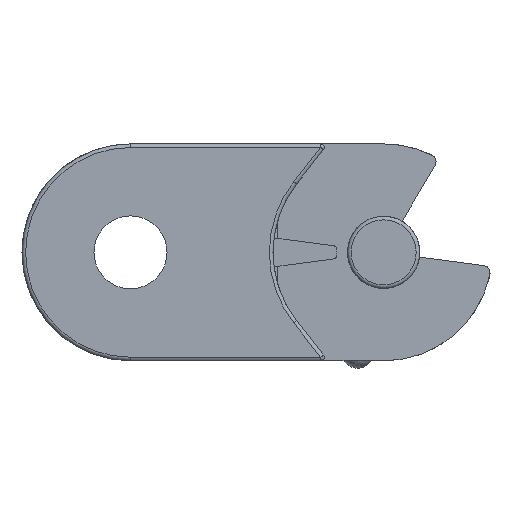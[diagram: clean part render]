
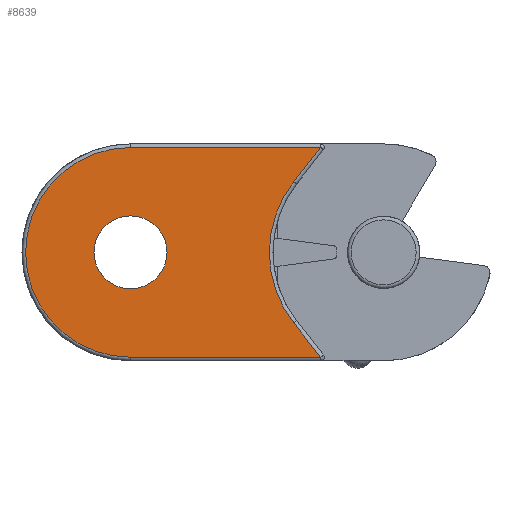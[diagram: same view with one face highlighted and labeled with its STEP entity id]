
A CAD part, left-side view. The second image highlights one B-rep face of the part: STEP entity #8639.
In plain terms, the highlighted planar face has unit normal (-1, 0, 0) as drawn and (0, 0, -1) by its records, which use the part's own axes.
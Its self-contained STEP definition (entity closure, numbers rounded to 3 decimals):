
#6693=CARTESIAN_POINT('',(-35.889,-30.583,-72.519));
#6694=VERTEX_POINT('',#6693);
#6695=CARTESIAN_POINT('',(-40.939,-30.583,-72.519));
#6696=DIRECTION('',(0.0,0.0,-1.0));
#6697=DIRECTION('',(-1.0,0.0,0.0));
#6698=AXIS2_PLACEMENT_3D('',#6695,#6696,#6697);
#6699=CIRCLE('',#6698,5.05);
#6700=EDGE_CURVE('',#6694,#6694,#6699,.T.);
#6953=CARTESIAN_POINT('',(-14.646,-16.083,-72.519));
#6954=VERTEX_POINT('',#6953);
#6978=CARTESIAN_POINT('',(-14.646,-45.083,-72.519));
#6979=VERTEX_POINT('',#6978);
#7002=CARTESIAN_POINT('',(-18.371,-20.831,-72.519));
#7003=VERTEX_POINT('',#7002);
#7011=CARTESIAN_POINT('',(-14.646,-16.083,-72.519));
#7012=DIRECTION('',(-0.617,-0.787,0.0));
#7013=VECTOR('',#7012,6.035);
#7014=LINE('',#7011,#7013);
#7015=EDGE_CURVE('',#6954,#7003,#7014,.T.);
#7033=CARTESIAN_POINT('',(-18.371,-40.334,-72.519));
#7034=VERTEX_POINT('',#7033);
#7042=CARTESIAN_POINT('',(-5.939,-30.583,-72.519));
#7043=DIRECTION('',(0.0,0.0,1.0));
#7044=DIRECTION('',(-1.,0.,0.0));
#7045=AXIS2_PLACEMENT_3D('',#7042,#7043,#7044);
#7046=CIRCLE('',#7045,15.8);
#7047=EDGE_CURVE('',#7003,#7034,#7046,.T.);
#7059=CARTESIAN_POINT('',(-18.371,-40.334,-72.519));
#7060=DIRECTION('',(0.617,-0.787,0.0));
#7061=VECTOR('',#7060,6.035);
#7062=LINE('',#7059,#7061);
#7063=EDGE_CURVE('',#7034,#6979,#7062,.T.);
#7080=CARTESIAN_POINT('',(-40.939,-16.083,-72.519));
#7081=VERTEX_POINT('',#7080);
#7098=CARTESIAN_POINT('',(-40.939,-16.083,-72.519));
#7099=DIRECTION('',(1.0,0.0,0.0));
#7100=VECTOR('',#7099,26.293);
#7101=LINE('',#7098,#7100);
#7102=EDGE_CURVE('',#7081,#6954,#7101,.T.);
#7112=CARTESIAN_POINT('',(-40.939,-45.083,-72.519));
#7113=VERTEX_POINT('',#7112);
#7114=CARTESIAN_POINT('',(-40.939,-30.583,-72.519));
#7115=DIRECTION('',(0.0,0.0,-1.0));
#7116=DIRECTION('',(-1.0,0.0,0.0));
#7117=AXIS2_PLACEMENT_3D('',#7114,#7115,#7116);
#7118=CIRCLE('',#7117,14.5);
#7119=EDGE_CURVE('',#7113,#7081,#7118,.T.);
#7154=CARTESIAN_POINT('',(-14.646,-45.083,-72.519));
#7155=DIRECTION('',(-1.0,0.0,0.0));
#7156=VECTOR('',#7155,26.293);
#7157=LINE('',#7154,#7156);
#7158=EDGE_CURVE('',#6979,#7113,#7157,.T.);
#8623=CARTESIAN_POINT('',(-35.043,-16.083,-72.519));
#8624=DIRECTION('',(0.0,0.0,-1.0));
#8625=DIRECTION('',(-1.0,0.0,0.0));
#8626=AXIS2_PLACEMENT_3D('',#8623,#8624,#8625);
#8627=PLANE('',#8626);
#8628=ORIENTED_EDGE('',*,*,#7158,.T.);
#8629=ORIENTED_EDGE('',*,*,#7119,.T.);
#8630=ORIENTED_EDGE('',*,*,#7102,.T.);
#8631=ORIENTED_EDGE('',*,*,#7015,.T.);
#8632=ORIENTED_EDGE('',*,*,#7047,.T.);
#8633=ORIENTED_EDGE('',*,*,#7063,.T.);
#8634=EDGE_LOOP('',(#8628,#8629,#8630,#8631,#8632,#8633));
#8635=FACE_OUTER_BOUND('',#8634,.T.);
#8636=ORIENTED_EDGE('',*,*,#6700,.F.);
#8637=EDGE_LOOP('',(#8636));
#8638=FACE_BOUND('',#8637,.T.);
#8639=ADVANCED_FACE('',(#8635,#8638),#8627,.T.);
